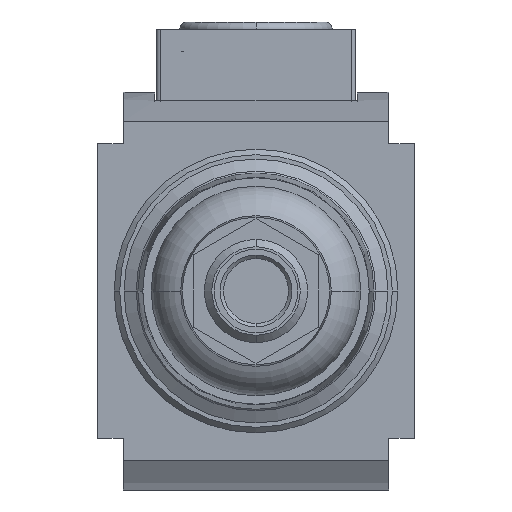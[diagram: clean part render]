
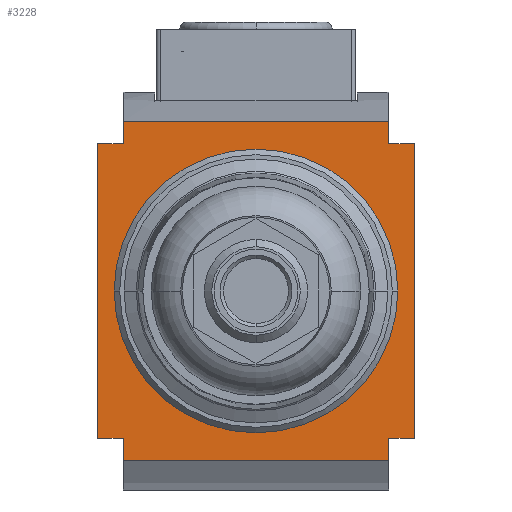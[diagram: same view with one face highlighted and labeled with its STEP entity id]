
A CAD part, front view. The second image highlights one B-rep face of the part: STEP entity #3228.
In plain terms, the highlighted planar face has unit normal (0, -1, 0).
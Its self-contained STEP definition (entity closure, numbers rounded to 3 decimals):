
#30=DIRECTION('',(0.,0.,-1.));
#31=VECTOR('',#30,3.);
#32=CARTESIAN_POINT('',(-18.,-25.,-20.));
#33=LINE('',#32,#31);
#64=DIRECTION('',(0.,0.,-1.));
#65=VECTOR('',#64,3.);
#66=CARTESIAN_POINT('',(-18.,-25.,23.));
#67=LINE('',#66,#65);
#136=DIRECTION('',(0.,0.,-1.));
#137=VECTOR('',#136,3.);
#138=CARTESIAN_POINT('',(18.,-25.,23.));
#139=LINE('',#138,#137);
#170=DIRECTION('',(0.,0.,-1.));
#171=VECTOR('',#170,3.);
#172=CARTESIAN_POINT('',(18.,-25.,-20.));
#173=LINE('',#172,#171);
#203=DIRECTION('',(1.,0.,0.));
#204=VECTOR('',#203,3.5);
#205=CARTESIAN_POINT('',(18.,-25.,20.));
#206=LINE('',#205,#204);
#243=DIRECTION('',(1.,0.,0.));
#244=VECTOR('',#243,3.5);
#245=CARTESIAN_POINT('',(-21.5,-25.,20.));
#246=LINE('',#245,#244);
#494=DIRECTION('',(1.,0.,0.));
#495=VECTOR('',#494,3.5);
#496=CARTESIAN_POINT('',(18.,-25.,-20.));
#497=LINE('',#496,#495);
#560=DIRECTION('',(1.,0.,0.));
#561=VECTOR('',#560,3.5);
#562=CARTESIAN_POINT('',(-21.5,-25.,-20.));
#563=LINE('',#562,#561);
#722=DIRECTION('',(0.,0.,1.));
#723=VECTOR('',#722,40.);
#724=CARTESIAN_POINT('',(21.5,-25.,-20.));
#725=LINE('',#724,#723);
#726=DIRECTION('',(0.,0.,1.));
#727=VECTOR('',#726,40.);
#728=CARTESIAN_POINT('',(-21.5,-25.,-20.));
#729=LINE('',#728,#727);
#730=DIRECTION('',(1.,0.,0.));
#731=VECTOR('',#730,36.);
#732=CARTESIAN_POINT('',(-18.,-25.,23.));
#733=LINE('',#732,#731);
#734=CARTESIAN_POINT('',(0.,-25.,0.));
#735=DIRECTION('',(0.,-1.,0.));
#736=DIRECTION('',(0.866,0.,-0.5));
#737=AXIS2_PLACEMENT_3D('',#734,#735,#736);
#739=DIRECTION('',(1.,0.,0.));
#740=VECTOR('',#739,1.166);
#741=CARTESIAN_POINT('',(14.422,-25.,9.));
#742=LINE('',#741,#740);
#743=CARTESIAN_POINT('',(0.,-25.,0.));
#744=DIRECTION('',(0.,1.,0.));
#745=DIRECTION('',(0.529,0.,0.848));
#746=AXIS2_PLACEMENT_3D('',#743,#744,#745);
#748=DIRECTION('',(0.,0.,-1.));
#749=VECTOR('',#748,1.166);
#750=CARTESIAN_POINT('',(9.,-25.,15.588));
#751=LINE('',#750,#749);
#752=CARTESIAN_POINT('',(0.,-25.,0.));
#753=DIRECTION('',(0.,-1.,0.));
#754=DIRECTION('',(0.5,0.,0.866));
#755=AXIS2_PLACEMENT_3D('',#752,#753,#754);
#757=CARTESIAN_POINT('',(0.,-25.,0.));
#758=DIRECTION('',(0.,-1.,0.));
#759=DIRECTION('',(0.,0.,1.));
#760=AXIS2_PLACEMENT_3D('',#757,#758,#759);
#762=DIRECTION('',(0.,0.,1.));
#763=VECTOR('',#762,1.166);
#764=CARTESIAN_POINT('',(-9.,-25.,14.422));
#765=LINE('',#764,#763);
#766=CARTESIAN_POINT('',(0.,-25.,0.));
#767=DIRECTION('',(0.,1.,0.));
#768=DIRECTION('',(-0.848,0.,0.529));
#769=AXIS2_PLACEMENT_3D('',#766,#767,#768);
#771=DIRECTION('',(1.,0.,0.));
#772=VECTOR('',#771,1.166);
#773=CARTESIAN_POINT('',(-15.588,-25.,9.));
#774=LINE('',#773,#772);
#775=CARTESIAN_POINT('',(0.,-25.,0.));
#776=DIRECTION('',(0.,-1.,0.));
#777=DIRECTION('',(-0.866,0.,0.5));
#778=AXIS2_PLACEMENT_3D('',#775,#776,#777);
#780=DIRECTION('',(-1.,0.,0.));
#781=VECTOR('',#780,1.166);
#782=CARTESIAN_POINT('',(-14.422,-25.,-9.));
#783=LINE('',#782,#781);
#784=CARTESIAN_POINT('',(0.,-25.,0.));
#785=DIRECTION('',(0.,1.,0.));
#786=DIRECTION('',(-0.529,0.,-0.848));
#787=AXIS2_PLACEMENT_3D('',#784,#785,#786);
#789=DIRECTION('',(0.,0.,1.));
#790=VECTOR('',#789,1.166);
#791=CARTESIAN_POINT('',(-9.,-25.,-15.588));
#792=LINE('',#791,#790);
#793=CARTESIAN_POINT('',(0.,-25.,0.));
#794=DIRECTION('',(0.,-1.,0.));
#795=DIRECTION('',(-0.5,0.,-0.866));
#796=AXIS2_PLACEMENT_3D('',#793,#794,#795);
#798=CARTESIAN_POINT('',(0.,-25.,0.));
#799=DIRECTION('',(0.,-1.,0.));
#800=DIRECTION('',(0.,0.,-1.));
#801=AXIS2_PLACEMENT_3D('',#798,#799,#800);
#803=DIRECTION('',(0.,0.,-1.));
#804=VECTOR('',#803,1.166);
#805=CARTESIAN_POINT('',(9.,-25.,-14.422));
#806=LINE('',#805,#804);
#807=CARTESIAN_POINT('',(0.,-25.,0.));
#808=DIRECTION('',(0.,1.,0.));
#809=DIRECTION('',(0.848,0.,-0.529));
#810=AXIS2_PLACEMENT_3D('',#807,#808,#809);
#812=DIRECTION('',(-1.,0.,0.));
#813=VECTOR('',#812,1.166);
#814=CARTESIAN_POINT('',(15.588,-25.,-9.));
#815=LINE('',#814,#813);
#820=DIRECTION('',(1.,0.,0.));
#821=VECTOR('',#820,36.);
#822=CARTESIAN_POINT('',(-18.,-25.,-23.));
#823=LINE('',#822,#821);
#1894=CARTESIAN_POINT('',(-18.,-25.,23.));
#1895=CARTESIAN_POINT('',(18.,-25.,23.));
#1896=VERTEX_POINT('',#1894);
#1897=VERTEX_POINT('',#1895);
#1898=CARTESIAN_POINT('',(-18.,-25.,-23.));
#1899=CARTESIAN_POINT('',(18.,-25.,-23.));
#1900=VERTEX_POINT('',#1898);
#1901=VERTEX_POINT('',#1899);
#1912=CARTESIAN_POINT('',(-21.5,-25.,-20.));
#1913=VERTEX_POINT('',#1912);
#1914=CARTESIAN_POINT('',(21.5,-25.,-20.));
#1916=VERTEX_POINT('',#1914);
#1936=CARTESIAN_POINT('',(-21.5,-25.,20.));
#1937=VERTEX_POINT('',#1936);
#1938=CARTESIAN_POINT('',(21.5,-25.,20.));
#1940=VERTEX_POINT('',#1938);
#1950=CARTESIAN_POINT('',(-18.,-25.,20.));
#1951=VERTEX_POINT('',#1950);
#1952=CARTESIAN_POINT('',(18.,-25.,20.));
#1953=VERTEX_POINT('',#1952);
#1954=CARTESIAN_POINT('',(-18.,-25.,-20.));
#1955=VERTEX_POINT('',#1954);
#1956=CARTESIAN_POINT('',(18.,-25.,-20.));
#1957=VERTEX_POINT('',#1956);
#2402=CARTESIAN_POINT('',(0.,-25.,18.));
#2403=VERTEX_POINT('',#2402);
#2404=CARTESIAN_POINT('',(0.,-25.,-18.));
#2405=VERTEX_POINT('',#2404);
#2406=CARTESIAN_POINT('',(-9.,-25.,-14.422));
#2407=CARTESIAN_POINT('',(-14.422,-25.,-9.));
#2408=VERTEX_POINT('',#2406);
#2409=VERTEX_POINT('',#2407);
#2410=CARTESIAN_POINT('',(-14.422,-25.,9.));
#2411=CARTESIAN_POINT('',(-9.,-25.,14.422));
#2412=VERTEX_POINT('',#2410);
#2413=VERTEX_POINT('',#2411);
#2414=CARTESIAN_POINT('',(14.422,-25.,-9.));
#2415=CARTESIAN_POINT('',(9.,-25.,-14.422));
#2416=VERTEX_POINT('',#2414);
#2417=VERTEX_POINT('',#2415);
#2418=CARTESIAN_POINT('',(9.,-25.,14.422));
#2419=CARTESIAN_POINT('',(14.422,-25.,9.));
#2420=VERTEX_POINT('',#2418);
#2421=VERTEX_POINT('',#2419);
#2439=CARTESIAN_POINT('',(-9.,-25.,-15.588));
#2441=VERTEX_POINT('',#2439);
#2443=CARTESIAN_POINT('',(-15.588,-25.,-9.));
#2445=VERTEX_POINT('',#2443);
#2447=CARTESIAN_POINT('',(-9.,-25.,15.588));
#2449=VERTEX_POINT('',#2447);
#2451=CARTESIAN_POINT('',(-15.588,-25.,9.));
#2453=VERTEX_POINT('',#2451);
#2455=CARTESIAN_POINT('',(9.,-25.,-15.588));
#2457=VERTEX_POINT('',#2455);
#2459=CARTESIAN_POINT('',(15.588,-25.,-9.));
#2461=VERTEX_POINT('',#2459);
#2463=CARTESIAN_POINT('',(15.588,-25.,9.));
#2465=VERTEX_POINT('',#2463);
#2467=CARTESIAN_POINT('',(9.,-25.,15.588));
#2469=VERTEX_POINT('',#2467);
#3168=CARTESIAN_POINT('',(-18.,-25.,23.));
#3169=DIRECTION('',(0.,-1.,0.));
#3170=DIRECTION('',(0.,0.,-1.));
#3171=AXIS2_PLACEMENT_3D('',#3168,#3169,#3170);
#3172=PLANE('',#3171);
#3173=ORIENTED_EDGE('',*,*,#2613,.T.);
#3174=ORIENTED_EDGE('',*,*,#2665,.T.);
#3175=ORIENTED_EDGE('',*,*,#3161,.F.);
#3176=ORIENTED_EDGE('',*,*,#2953,.F.);
#3177=ORIENTED_EDGE('',*,*,#2636,.T.);
#3179=ORIENTED_EDGE('',*,*,#3178,.F.);
#3180=ORIENTED_EDGE('',*,*,#2489,.F.);
#3181=ORIENTED_EDGE('',*,*,#3006,.F.);
#3183=ORIENTED_EDGE('',*,*,#3182,.T.);
#3184=ORIENTED_EDGE('',*,*,#2711,.T.);
#3185=ORIENTED_EDGE('',*,*,#2513,.F.);
#3187=ORIENTED_EDGE('',*,*,#3186,.T.);
#3188=EDGE_LOOP('',(#3173,#3174,#3175,#3176,#3177,#3179,#3180,#3181,#3183,#3184,
#3185,#3187));
#3189=FACE_OUTER_BOUND('',#3188,.F.);
#3191=ORIENTED_EDGE('',*,*,#3190,.T.);
#3193=ORIENTED_EDGE('',*,*,#3192,.F.);
#3195=ORIENTED_EDGE('',*,*,#3194,.F.);
#3197=ORIENTED_EDGE('',*,*,#3196,.F.);
#3199=ORIENTED_EDGE('',*,*,#3198,.T.);
#3201=ORIENTED_EDGE('',*,*,#3200,.T.);
#3203=ORIENTED_EDGE('',*,*,#3202,.F.);
#3205=ORIENTED_EDGE('',*,*,#3204,.F.);
#3207=ORIENTED_EDGE('',*,*,#3206,.F.);
#3209=ORIENTED_EDGE('',*,*,#3208,.T.);
#3211=ORIENTED_EDGE('',*,*,#3210,.F.);
#3213=ORIENTED_EDGE('',*,*,#3212,.F.);
#3215=ORIENTED_EDGE('',*,*,#3214,.F.);
#3217=ORIENTED_EDGE('',*,*,#3216,.T.);
#3219=ORIENTED_EDGE('',*,*,#3218,.T.);
#3221=ORIENTED_EDGE('',*,*,#3220,.F.);
#3223=ORIENTED_EDGE('',*,*,#3222,.F.);
#3225=ORIENTED_EDGE('',*,*,#3224,.F.);
#3226=EDGE_LOOP('',(#3191,#3193,#3195,#3197,#3199,#3201,#3203,#3205,#3207,#3209,
#3211,#3213,#3215,#3217,#3219,#3221,#3223,#3225));
#3227=FACE_BOUND('',#3226,.F.);
#3228=ADVANCED_FACE('',(#3189,#3227),#3172,.T.);
#738=CIRCLE('',#737,18.);
#747=CIRCLE('',#746,17.);
#756=CIRCLE('',#755,18.);
#761=CIRCLE('',#760,18.);
#770=CIRCLE('',#769,17.);
#779=CIRCLE('',#778,18.);
#788=CIRCLE('',#787,17.);
#797=CIRCLE('',#796,18.);
#802=CIRCLE('',#801,18.);
#811=CIRCLE('',#810,17.);
#2489=EDGE_CURVE('',#1955,#1900,#33,.T.);
#2513=EDGE_CURVE('',#1896,#1951,#67,.T.);
#2613=EDGE_CURVE('',#1897,#1953,#139,.T.);
#2636=EDGE_CURVE('',#1957,#1901,#173,.T.);
#2665=EDGE_CURVE('',#1953,#1940,#206,.T.);
#2711=EDGE_CURVE('',#1937,#1951,#246,.T.);
#2953=EDGE_CURVE('',#1957,#1916,#497,.T.);
#3006=EDGE_CURVE('',#1913,#1955,#563,.T.);
#3161=EDGE_CURVE('',#1916,#1940,#725,.T.);
#3178=EDGE_CURVE('',#1900,#1901,#823,.T.);
#3182=EDGE_CURVE('',#1913,#1937,#729,.T.);
#3186=EDGE_CURVE('',#1896,#1897,#733,.T.);
#3190=EDGE_CURVE('',#2461,#2465,#738,.T.);
#3192=EDGE_CURVE('',#2421,#2465,#742,.T.);
#3194=EDGE_CURVE('',#2420,#2421,#747,.T.);
#3196=EDGE_CURVE('',#2469,#2420,#751,.T.);
#3198=EDGE_CURVE('',#2469,#2403,#756,.T.);
#3200=EDGE_CURVE('',#2403,#2449,#761,.T.);
#3202=EDGE_CURVE('',#2413,#2449,#765,.T.);
#3204=EDGE_CURVE('',#2412,#2413,#770,.T.);
#3206=EDGE_CURVE('',#2453,#2412,#774,.T.);
#3208=EDGE_CURVE('',#2453,#2445,#779,.T.);
#3210=EDGE_CURVE('',#2409,#2445,#783,.T.);
#3212=EDGE_CURVE('',#2408,#2409,#788,.T.);
#3214=EDGE_CURVE('',#2441,#2408,#792,.T.);
#3216=EDGE_CURVE('',#2441,#2405,#797,.T.);
#3218=EDGE_CURVE('',#2405,#2457,#802,.T.);
#3220=EDGE_CURVE('',#2417,#2457,#806,.T.);
#3222=EDGE_CURVE('',#2416,#2417,#811,.T.);
#3224=EDGE_CURVE('',#2461,#2416,#815,.T.);
